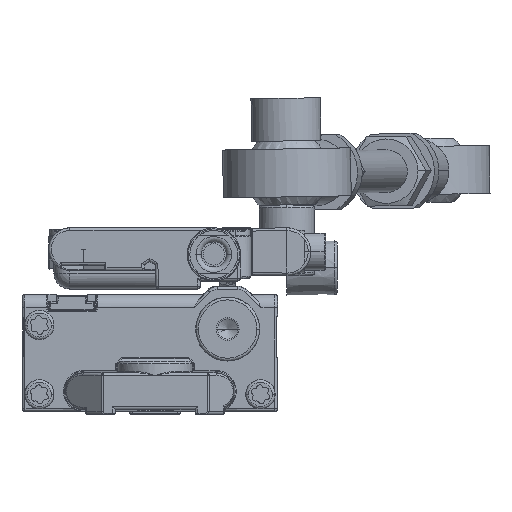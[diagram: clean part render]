
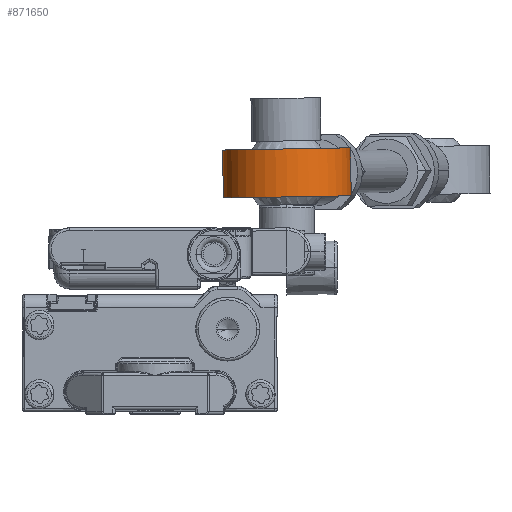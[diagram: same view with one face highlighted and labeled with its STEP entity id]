
A CAD part, left-side view. The second image highlights one B-rep face of the part: STEP entity #871650.
In plain terms, the highlighted cylindrical face has radius 12 mm (diameter 24 mm), a partial arc.
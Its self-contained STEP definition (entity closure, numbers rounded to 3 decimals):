
#870590=CARTESIAN_POINT('',(-150.,-3.,0.));
#870600=DIRECTION('',(0.,-1.,0.));
#870610=DIRECTION('',(0.,0.,1.));
#870620=AXIS2_PLACEMENT_3D('',#870590,#870600,#870610);
#870630=CYLINDRICAL_SURFACE('',#870620,12.);
#870640=CARTESIAN_POINT('',(-133.5,0.,
0.));
#870650=DIRECTION('',(1.,0.,0.));
#870660=DIRECTION('',(0.,0.,-1.));
#870670=AXIS2_PLACEMENT_3D('',#870640,#870650,#870660);
#870680=CYLINDRICAL_SURFACE('',#870670,6.25);
#870690=CARTESIAN_POINT('',(-139.756,0.,6.25)
);
#870700=CARTESIAN_POINT('',(-139.756,0.427,6.25));
#870710=CARTESIAN_POINT('',(-139.729,0.852,
6.206));
#870720=CARTESIAN_POINT('',(-139.678,1.267,
6.12));
#870730=CARTESIAN_POINT('',(-139.627,1.681,
6.034));
#870740=CARTESIAN_POINT('',(-139.553,2.085,
5.907));
#870750=CARTESIAN_POINT('',(-139.463,2.468,
5.742));
#870760=CARTESIAN_POINT('',(-139.373,2.851,
5.578));
#870770=CARTESIAN_POINT('',(-139.268,3.216,
5.375));
#870780=CARTESIAN_POINT('',(-139.156,3.558,
5.139));
#870790=CARTESIAN_POINT('',(-139.044,3.899,
4.902));
#870800=CARTESIAN_POINT('',(-138.926,4.215,
4.633));
#870810=CARTESIAN_POINT('',(-138.811,4.5,4.337));
#870820=B_SPLINE_CURVE_WITH_KNOTS('',3,(#870690,#870700,#870710,#870720,
#870730,#870740,#870750,#870760,#870770,#870780,#870790,#870800,#870810)
,.UNSPECIFIED.,.F.,.F.,(4,3,3,3,4),(0.,1.279,2.559,
3.844,5.13),.UNSPECIFIED.);
#870830=SURFACE_CURVE('',#870820,(#870680,#870630),.CURVE_3D.);
#870840=CARTESIAN_POINT('',(-139.756,0.,6.25)
);
#870850=VERTEX_POINT('',#870840);
#870860=CARTESIAN_POINT('',(-138.811,4.5,4.337));
#870870=VERTEX_POINT('',#870860);
#870880=EDGE_CURVE('',#870850,#870870,#870830,.T.);
#870890=ORIENTED_EDGE('',*,*,#870880,.T.);
#870900=CARTESIAN_POINT('',(-138.811,-4.5,
4.337));
#870910=CARTESIAN_POINT('',(-138.926,-4.216,
4.632));
#870920=CARTESIAN_POINT('',(-139.044,-3.9,
4.902));
#870930=CARTESIAN_POINT('',(-139.156,-3.558,
5.138));
#870940=CARTESIAN_POINT('',(-139.268,-3.217,
5.375));
#870950=CARTESIAN_POINT('',(-139.373,-2.851,
5.578));
#870960=CARTESIAN_POINT('',(-139.463,-2.468,
5.742));
#870970=CARTESIAN_POINT('',(-139.553,-2.085,
5.907));
#870980=CARTESIAN_POINT('',(-139.627,-1.681,
6.035));
#870990=CARTESIAN_POINT('',(-139.678,-1.267,
6.12));
#871000=CARTESIAN_POINT('',(-139.729,-0.852,
6.206));
#871010=CARTESIAN_POINT('',(-139.756,-0.426,6.25));
#871020=CARTESIAN_POINT('',(-139.756,0.,6.25)
);
#871030=B_SPLINE_CURVE_WITH_KNOTS('',3,(#870900,#870910,#870920,#870930,
#870940,#870950,#870960,#870970,#870980,#870990,#871000,#871010,#871020)
,.UNSPECIFIED.,.F.,.F.,(4,3,3,3,4),(0.,1.285,2.572
,3.851,5.13),.UNSPECIFIED.);
#871040=SURFACE_CURVE('',#871030,(#870680,#870630),.CURVE_3D.);
#871050=CARTESIAN_POINT('',(-138.811,-4.5,
4.337));
#871060=VERTEX_POINT('',#871050);
#871070=EDGE_CURVE('',#871060,#870850,#871040,.T.);
#871080=ORIENTED_EDGE('',*,*,#871070,.T.);
#871090=CARTESIAN_POINT('',(-150.,-4.5,0.));
#871100=DIRECTION('',(0.,-1.,0.));
#871110=DIRECTION('',(0.,0.,1.));
#871120=AXIS2_PLACEMENT_3D('',#871090,#871100,#871110);
#871130=CIRCLE('',#871120,12.);
#871140=CARTESIAN_POINT('',(-138.811,-4.5,
-4.337));
#871150=VERTEX_POINT('',#871140);
#871160=EDGE_CURVE('',#871060,#871150,#871130,.T.);
#871170=ORIENTED_EDGE('',*,*,#871160,.F.);
#871180=CARTESIAN_POINT('',(-139.756,0.,-6.25
));
#871190=CARTESIAN_POINT('',(-139.756,-0.426,-6.25))
;
#871200=CARTESIAN_POINT('',(-139.729,-0.852,
-6.206));
#871210=CARTESIAN_POINT('',(-139.678,-1.267,
-6.12));
#871220=CARTESIAN_POINT('',(-139.627,-1.681,
-6.034));
#871230=CARTESIAN_POINT('',(-139.553,-2.084,
-5.907));
#871240=CARTESIAN_POINT('',(-139.463,-2.468,
-5.742));
#871250=CARTESIAN_POINT('',(-139.373,-2.853,
-5.577));
#871260=CARTESIAN_POINT('',(-139.268,-3.215,
-5.376));
#871270=CARTESIAN_POINT('',(-139.157,-3.555,
-5.14));
#871280=CARTESIAN_POINT('',(-139.045,-3.896,
-4.905));
#871290=CARTESIAN_POINT('',(-138.927,-4.213,
-4.635));
#871300=CARTESIAN_POINT('',(-138.811,-4.5,-4.337));
#871310=B_SPLINE_CURVE_WITH_KNOTS('',3,(#871180,#871190,#871200,#871210,
#871220,#871230,#871240,#871250,#871260,#871270,#871280,#871290,#871300)
,.UNSPECIFIED.,.F.,.F.,(4,3,3,3,4),(0.,1.279,2.559
,3.841,5.13),.UNSPECIFIED.);
#871320=SURFACE_CURVE('',#871310,(#870680,#870630),.CURVE_3D.);
#871330=CARTESIAN_POINT('',(-139.756,0.,-6.25))
;
#871340=VERTEX_POINT('',#871330);
#871350=EDGE_CURVE('',#871340,#871150,#871320,.T.);
#871360=ORIENTED_EDGE('',*,*,#871350,.T.);
#871370=CARTESIAN_POINT('',(-138.811,4.5,-4.337));
#871380=CARTESIAN_POINT('',(-138.927,4.213,
-4.635));
#871390=CARTESIAN_POINT('',(-139.045,3.896,
-4.904));
#871400=CARTESIAN_POINT('',(-139.156,3.558,
-5.138));
#871410=CARTESIAN_POINT('',(-139.267,3.221,
-5.372));
#871420=CARTESIAN_POINT('',(-139.372,2.856,
-5.575));
#871430=CARTESIAN_POINT('',(-139.463,2.47,
-5.741));
#871440=CARTESIAN_POINT('',(-139.553,2.084,
-5.907));
#871450=CARTESIAN_POINT('',(-139.628,1.679,
-6.035));
#871460=CARTESIAN_POINT('',(-139.678,1.265,
-6.121));
#871470=CARTESIAN_POINT('',(-139.729,0.851,
-6.206));
#871480=CARTESIAN_POINT('',(-139.756,0.426,-6.25));
#871490=CARTESIAN_POINT('',(-139.756,0.,-6.25
));
#871500=B_SPLINE_CURVE_WITH_KNOTS('',3,(#871370,#871380,#871390,#871400,
#871410,#871420,#871430,#871440,#871450,#871460,#871470,#871480,#871490)
,.UNSPECIFIED.,.F.,.F.,(4,3,3,3,4),(0.,1.286,2.569
,3.853,5.13),.UNSPECIFIED.);
#871510=SURFACE_CURVE('',#871500,(#870680,#870630),.CURVE_3D.);
#871520=CARTESIAN_POINT('',(-138.811,4.5,
-4.337));
#871530=VERTEX_POINT('',#871520);
#871540=EDGE_CURVE('',#871530,#871340,#871510,.T.);
#871550=ORIENTED_EDGE('',*,*,#871540,.T.);
#871560=CARTESIAN_POINT('',(-150.,4.5,0.));
#871570=DIRECTION('',(0.,-1.,0.));
#871580=DIRECTION('',(0.,0.,1.));
#871590=AXIS2_PLACEMENT_3D('',#871560,#871570,#871580);
#871600=CIRCLE('',#871590,12.);
#871610=EDGE_CURVE('',#870870,#871530,#871600,.T.);
#871620=ORIENTED_EDGE('',*,*,#871610,.T.);
#871630=EDGE_LOOP('',(#871620,#871550,#871360,#871170,#871080,#870890));
#871640=FACE_OUTER_BOUND('',#871630,.T.);
#871650=ADVANCED_FACE('',(#871640),#870630,.T.);
